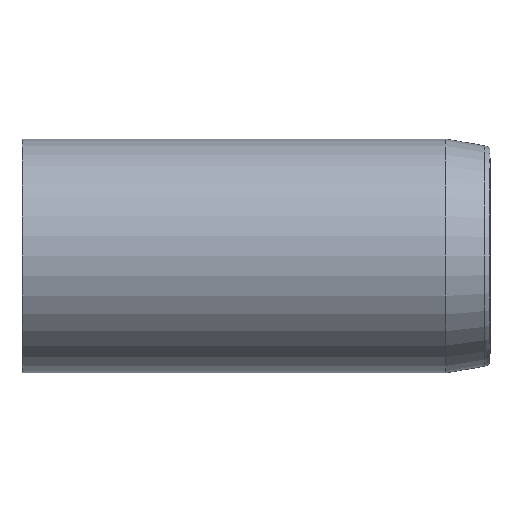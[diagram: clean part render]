
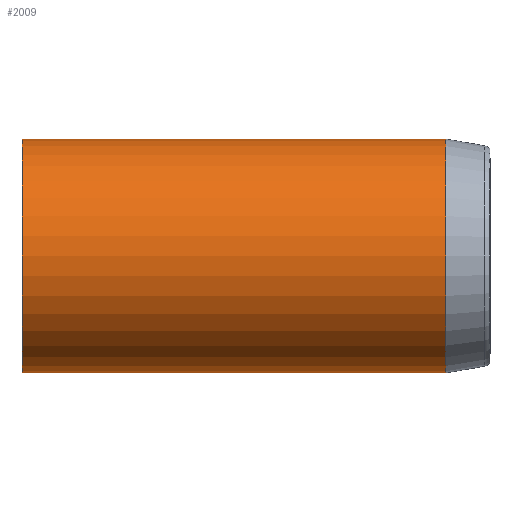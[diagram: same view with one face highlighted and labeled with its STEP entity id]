
A CAD part, left-side view. The second image highlights one B-rep face of the part: STEP entity #2009.
In plain terms, the highlighted cylindrical face has radius 3 mm (diameter 6 mm), a partial arc.
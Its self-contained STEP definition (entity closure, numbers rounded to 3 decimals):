
#199 = AXIS2_PLACEMENT_3D ( 'NONE', #3686, #3720, #3687 ) ;
#332 = DIRECTION ( 'NONE',  ( 0., 1., 0. ) ) ;
#349 = LINE ( 'NONE', #370, #1337 ) ;
#370 = CARTESIAN_POINT ( 'NONE',  ( 0., 12.621, 3. ) ) ;
#437 = VERTEX_POINT ( 'NONE', #756 ) ;
#462 = VERTEX_POINT ( 'NONE', #807 ) ;
#466 = VERTEX_POINT ( 'NONE', #821 ) ;
#468 = VERTEX_POINT ( 'NONE', #788 ) ;
#481 = ORIENTED_EDGE ( 'NONE', *, *, #1757, .T. ) ;
#483 = ORIENTED_EDGE ( 'NONE', *, *, #1769, .F. ) ;
#517 = ORIENTED_EDGE ( 'NONE', *, *, #1861, .T. ) ;
#571 = ORIENTED_EDGE ( 'NONE', *, *, #1792, .F. ) ;
#756 = CARTESIAN_POINT ( 'NONE',  ( 0., 12.1, -3. ) ) ;
#788 = CARTESIAN_POINT ( 'NONE',  ( 0., 1.233, 3. ) ) ;
#807 = CARTESIAN_POINT ( 'NONE',  ( 0., 1.233, -3. ) ) ;
#821 = CARTESIAN_POINT ( 'NONE',  ( 0., 12.1, 3. ) ) ;
#1337 = VECTOR ( 'NONE', #332, 1000. ) ;
#1390 = CIRCLE ( 'NONE', #1391, 3. ) ;
#1391 = AXIS2_PLACEMENT_3D ( 'NONE', #2982, #2957, #2954 ) ;
#1440 = VECTOR ( 'NONE', #3054, 1000. ) ;
#1455 = AXIS2_PLACEMENT_3D ( 'NONE', #2169, #2174, #2171 ) ;
#1488 = CIRCLE ( 'NONE', #1455, 3. ) ;
#1652 = EDGE_LOOP ( 'NONE', ( #571, #517, #481, #483 ) ) ;
#1757 = EDGE_CURVE ( 'NONE', #468, #466, #349, .T. ) ;
#1769 = EDGE_CURVE ( 'NONE', #437, #466, #1390, .T. ) ;
#1792 = EDGE_CURVE ( 'NONE', #462, #437, #3013, .T. ) ;
#1861 = EDGE_CURVE ( 'NONE', #462, #468, #1488, .T. ) ;
#2009 = ADVANCED_FACE ( 'NONE', ( #3732 ), #3713, .T. ) ;
#2169 = CARTESIAN_POINT ( 'NONE',  ( 0., 1.233, 0. ) ) ;
#2171 = DIRECTION ( 'NONE',  ( 0., 0., 1. ) ) ;
#2174 = DIRECTION ( 'NONE',  ( 0., 1., 0. ) ) ;
#2954 = DIRECTION ( 'NONE',  ( 0., 0., -1. ) ) ;
#2957 = DIRECTION ( 'NONE',  ( 0., 1., 0. ) ) ;
#2982 = CARTESIAN_POINT ( 'NONE',  ( 0., 12.1, 0. ) ) ;
#3013 = LINE ( 'NONE', #3036, #1440 ) ;
#3036 = CARTESIAN_POINT ( 'NONE',  ( 0., 12.621, -3. ) ) ;
#3054 = DIRECTION ( 'NONE',  ( 0., 1., 0. ) ) ;
#3686 = CARTESIAN_POINT ( 'NONE',  ( 0., 12.621, 0. ) ) ;
#3687 = DIRECTION ( 'NONE',  ( 0., 0., 1. ) ) ;
#3713 = CYLINDRICAL_SURFACE ( 'NONE', #199, 3. ) ;
#3720 = DIRECTION ( 'NONE',  ( 0., 1., 0. ) ) ;
#3732 = FACE_OUTER_BOUND ( 'NONE', #1652, .T. ) ;
